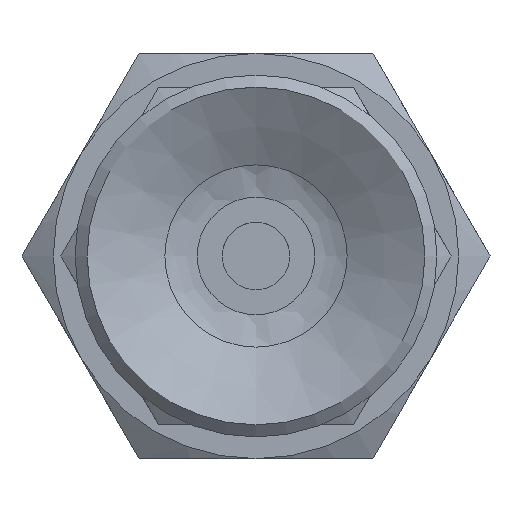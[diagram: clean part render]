
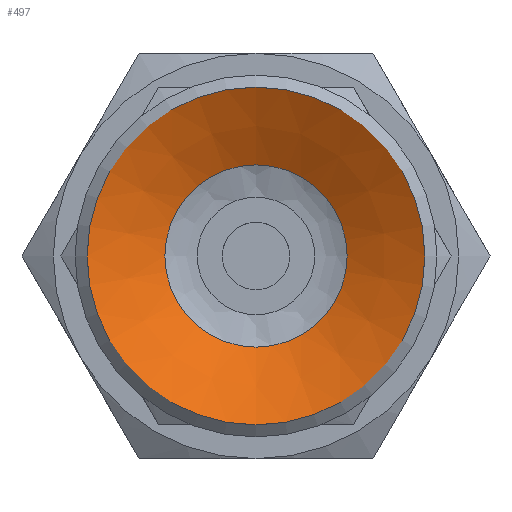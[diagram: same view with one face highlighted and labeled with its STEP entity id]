
A CAD part, front view. The second image highlights one B-rep face of the part: STEP entity #497.
In plain terms, the highlighted conical face has half-angle 61.39 degrees and reference radius 2.25 mm.
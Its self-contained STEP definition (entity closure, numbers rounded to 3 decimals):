
#497=ADVANCED_FACE('',(#755,#756),#757,.F.);
#755=FACE_BOUND('',#1024,.T.);
#756=FACE_OUTER_BOUND('',#1025,.T.);
#757=CONICAL_SURFACE('',#1026,2.25,1.071);
#1024=EDGE_LOOP('',(#1718));
#1025=EDGE_LOOP('',(#1719));
#1026=AXIS2_PLACEMENT_3D('',#1720,#1721,#1722);
#1718=ORIENTED_EDGE('',*,*,#1921,.T.);
#1719=ORIENTED_EDGE('',*,*,#1914,.T.);
#1720=CARTESIAN_POINT('',(0.0,1.5,0.0));
#1721=DIRECTION('',(-0.0,-1.0,0.));
#1722=DIRECTION('',(0.0,0.,-1.0));
#1914=EDGE_CURVE('',#2210,#2210,#2211,.T.);
#1921=EDGE_CURVE('',#2224,#2224,#2225,.T.);
#2210=VERTEX_POINT('',#2902);
#2211=CIRCLE('',#2903,5.);
#2224=VERTEX_POINT('',#2916);
#2225=CIRCLE('',#2917,2.698);
#2902=CARTESIAN_POINT('',(0.0,0.,-5.));
#2903=AXIS2_PLACEMENT_3D('',#3183,#3184,#3185);
#2916=CARTESIAN_POINT('',(0.0,1.256,-2.698));
#2917=AXIS2_PLACEMENT_3D('',#3204,#3205,#3206);
#3183=CARTESIAN_POINT('',(0.0,0.0,0.0));
#3184=DIRECTION('',(0.0,-1.0,0.));
#3185=DIRECTION('',(0.0,0.,-1.0));
#3204=CARTESIAN_POINT('',(0.0,1.256,0.0));
#3205=DIRECTION('',(0.0,1.0,0.));
#3206=DIRECTION('',(0.0,0.,-1.0));
